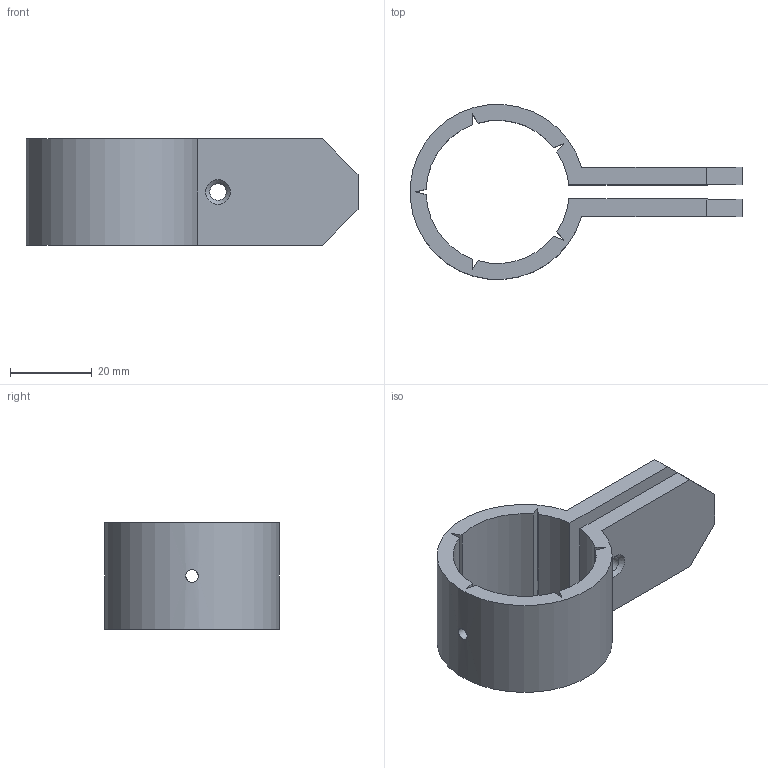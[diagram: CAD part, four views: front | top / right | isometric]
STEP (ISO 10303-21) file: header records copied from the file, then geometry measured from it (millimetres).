
FILE_DESCRIPTION(/* description */ (''),/* implementation_level */ '2;1');
FILE_NAME(/* name */ 'C:/Users/kingk/Desktop/PLEXUS Master Models/one/Plexus Crossbar B big v5.step',/* time_stamp */ '2018-09-06T17:13:58-04:00',/* author */ ('commando45a'),/* organization */ (''),/* preprocessor_version */ 'ST-DEVELOPER v17.2',/* originating_system */ 'Autodesk Translation Framework v7.6.0.251',/* authorisation */ '');
FILE_SCHEMA (('AUTOMOTIVE_DESIGN { 1 0 10303 214 3 1 1 }'));
Length unit declared in the file: millimetre
Products named in the file (1): Plexus Crossbar B big
Bounding box: 81.19 x 42.73 x 26.01 mm (x, y, z)
Volume: 19821.4 mm3; surface area: 12184.3 mm2
Topology: 1 solids, 1 shells, 38 faces, 109 edges, 72 vertices
Faces by surface type: plane 24, cylinder 10, cone 4
Full cylindrical faces by diameter (mm): 3.06 x1, 4 x2
Entity records: 1341 total; most frequent: CARTESIAN_POINT 282, ORIENTED_EDGE 218, DIRECTION 209, EDGE_CURVE 109, LINE 77, VECTOR 77, VERTEX_POINT 72, AXIS2_PLACEMENT_3D 66
